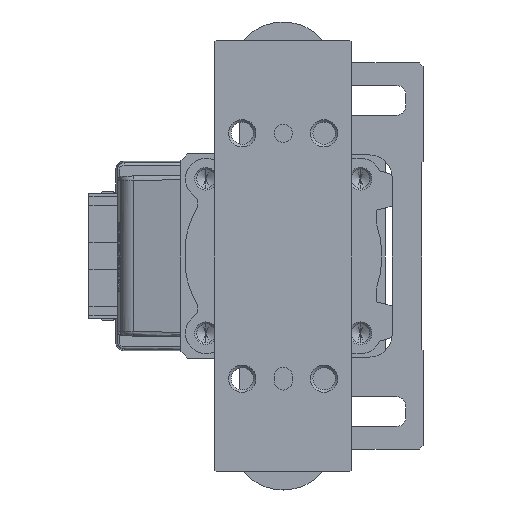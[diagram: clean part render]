
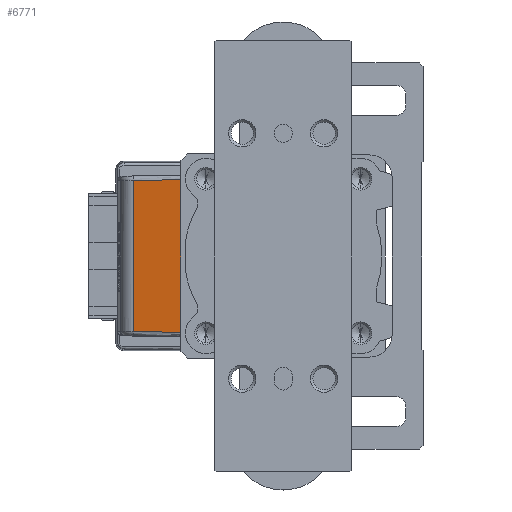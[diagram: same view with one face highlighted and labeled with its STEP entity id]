
A CAD part, left-side view. The second image highlights one B-rep face of the part: STEP entity #6771.
In plain terms, the highlighted planar face has unit normal (-0.985, 0.174, 0) as drawn and (0, 0.174, 0.985) by its records, which use the part's own axes.
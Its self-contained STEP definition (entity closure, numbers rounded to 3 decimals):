
#72 = ORIENTED_EDGE ( 'NONE', *, *, #29052, .T. ) ;
#2509 = CARTESIAN_POINT ( 'NONE',  ( 16.617, 32.922, -40.379 ) ) ;
#2659 = VERTEX_POINT ( 'NONE', #4162 ) ;
#2722 = DIRECTION ( 'NONE',  ( -0.017, 0.985, -0.174 ) ) ;
#3463 = DIRECTION ( 'NONE',  ( -1., 0., 0. ) ) ;
#4162 = CARTESIAN_POINT ( 'NONE',  ( -16.825, 21., -38.277 ) ) ;
#4355 = PLANE ( 'NONE',  #28389 ) ;
#5540 = EDGE_CURVE ( 'NONE', #6233, #10191, #10068, .T. ) ;
#6233 = VERTEX_POINT ( 'NONE', #14155 ) ;
#6440 = LINE ( 'NONE', #26314, #37218 ) ;
#6605 = CARTESIAN_POINT ( 'NONE',  ( 16.617, 32.905, -40.376 ) ) ;
#6766 = VERTEX_POINT ( 'NONE', #10262 ) ;
#6771 = ADVANCED_FACE ( 'NONE', ( #14803 ), #4355, .F. ) ;
#8374 = ORIENTED_EDGE ( 'NONE', *, *, #33118, .T. ) ;
#9754 = LINE ( 'NONE', #19704, #38100 ) ;
#10068 = LINE ( 'NONE', #6605, #39262 ) ;
#10191 = VERTEX_POINT ( 'NONE', #2509 ) ;
#10262 = CARTESIAN_POINT ( 'NONE',  ( -16.617, 32.922, -40.379 ) ) ;
#14155 = CARTESIAN_POINT ( 'NONE',  ( 16.825, 21., -38.277 ) ) ;
#14803 = FACE_OUTER_BOUND ( 'NONE', #22942, .T. ) ;
#19704 = CARTESIAN_POINT ( 'NONE',  ( -17.568, 32.922, -40.379 ) ) ;
#22942 = EDGE_LOOP ( 'NONE', ( #72, #38836, #8374, #37202 ) ) ;
#26314 = CARTESIAN_POINT ( 'NONE',  ( -16.825, 20.983, -38.274 ) ) ;
#27513 = CARTESIAN_POINT ( 'NONE',  ( 0., 21.26, -38.323 ) ) ;
#28389 = AXIS2_PLACEMENT_3D ( 'NONE', #27513, #40544, #32153 ) ;
#29052 = EDGE_CURVE ( 'NONE', #10191, #6766, #9754, .T. ) ;
#32153 = DIRECTION ( 'NONE',  ( 1., 0., 0. ) ) ;
#32466 = VECTOR ( 'NONE', #34725, 1000. ) ;
#33118 = EDGE_CURVE ( 'NONE', #2659, #6233, #41384, .T. ) ;
#34725 = DIRECTION ( 'NONE',  ( 1., 0., 0. ) ) ;
#37202 = ORIENTED_EDGE ( 'NONE', *, *, #5540, .T. ) ;
#37218 = VECTOR ( 'NONE', #39611, 1000. ) ;
#38100 = VECTOR ( 'NONE', #3463, 1000. ) ;
#38836 = ORIENTED_EDGE ( 'NONE', *, *, #41798, .T. ) ;
#39262 = VECTOR ( 'NONE', #2722, 1000. ) ;
#39611 = DIRECTION ( 'NONE',  ( -0.017, -0.985, 0.174 ) ) ;
#40544 = DIRECTION ( 'NONE',  ( 0., -0.174, -0.985 ) ) ;
#41384 = LINE ( 'NONE', #41594, #32466 ) ;
#41594 = CARTESIAN_POINT ( 'NONE',  ( 0., 21., -38.277 ) ) ;
#41798 = EDGE_CURVE ( 'NONE', #6766, #2659, #6440, .T. ) ;
